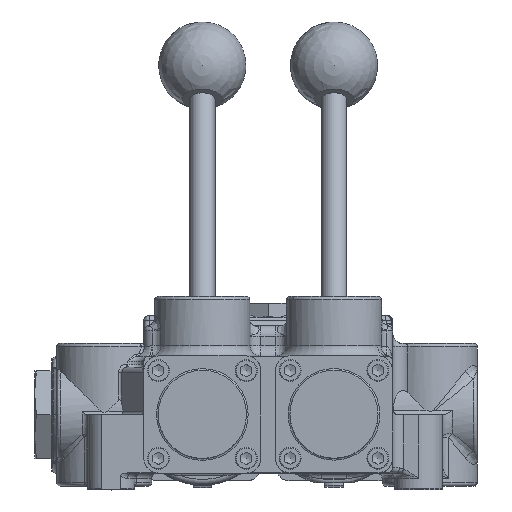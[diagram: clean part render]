
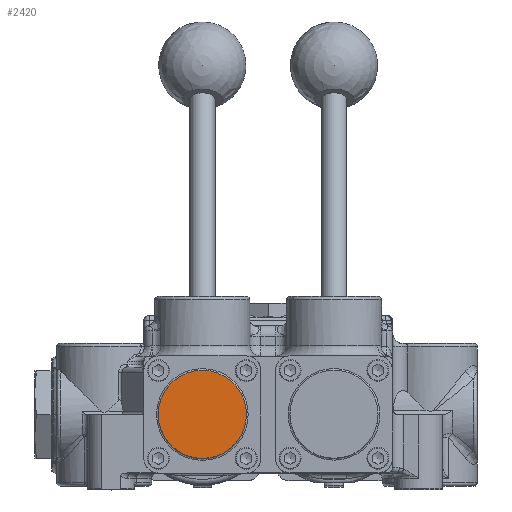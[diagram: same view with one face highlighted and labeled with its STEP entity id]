
A CAD part, top view. The second image highlights one B-rep face of the part: STEP entity #2420.
In plain terms, the highlighted planar face has unit normal (0, 0, 1).
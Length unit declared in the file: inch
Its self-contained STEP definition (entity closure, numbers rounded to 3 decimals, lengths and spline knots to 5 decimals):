
#2290=CARTESIAN_POINT('',(-1.497,0.,7.745));
#2291=VERTEX_POINT('',#2290);
#2292=CARTESIAN_POINT('',(-2.25,0.,7.745));
#2293=DIRECTION('',(0.0,0.0,-1.0));
#2294=DIRECTION('',(-1.0,0.0,0.0));
#2295=AXIS2_PLACEMENT_3D('',#2292,#2293,#2294);
#2296=CIRCLE('',#2295,0.753);
#2297=EDGE_CURVE('',#2291,#2291,#2296,.T.);
#2412=CARTESIAN_POINT('',(-2.25,0.,7.745));
#2413=DIRECTION('',(0.0,0.0,1.0));
#2414=DIRECTION('',(-1.0,0.0,0.0));
#2415=AXIS2_PLACEMENT_3D('',#2412,#2413,#2414);
#2416=PLANE('',#2415);
#2417=ORIENTED_EDGE('',*,*,#2297,.F.);
#2418=EDGE_LOOP('',(#2417));
#2419=FACE_OUTER_BOUND('',#2418,.T.);
#2420=ADVANCED_FACE('',(#2419),#2416,.T.);
